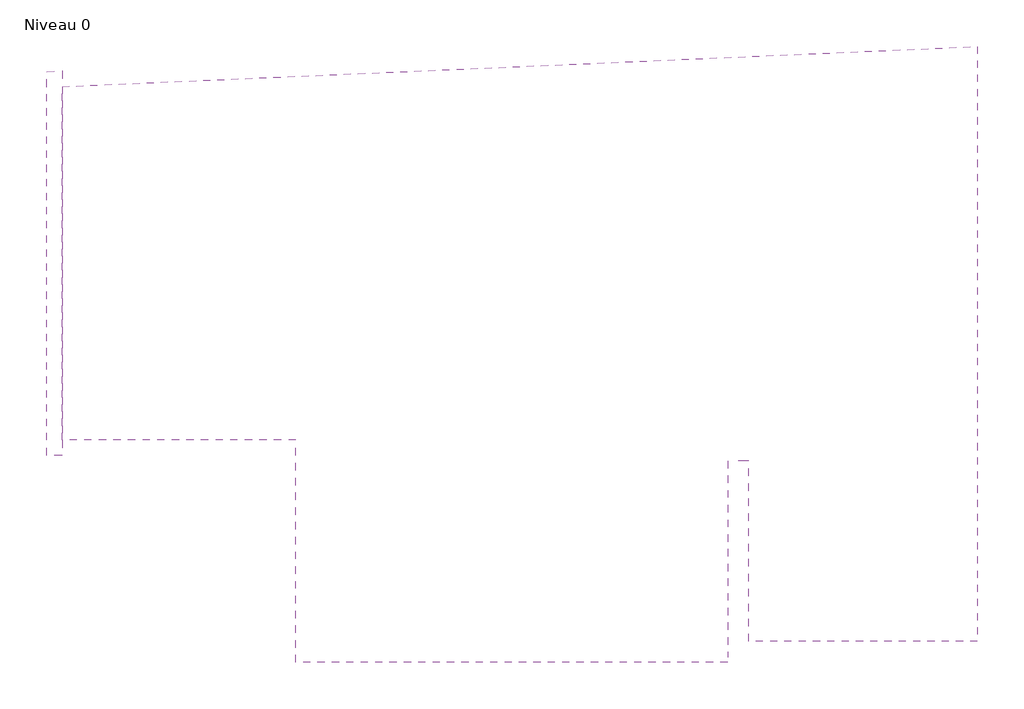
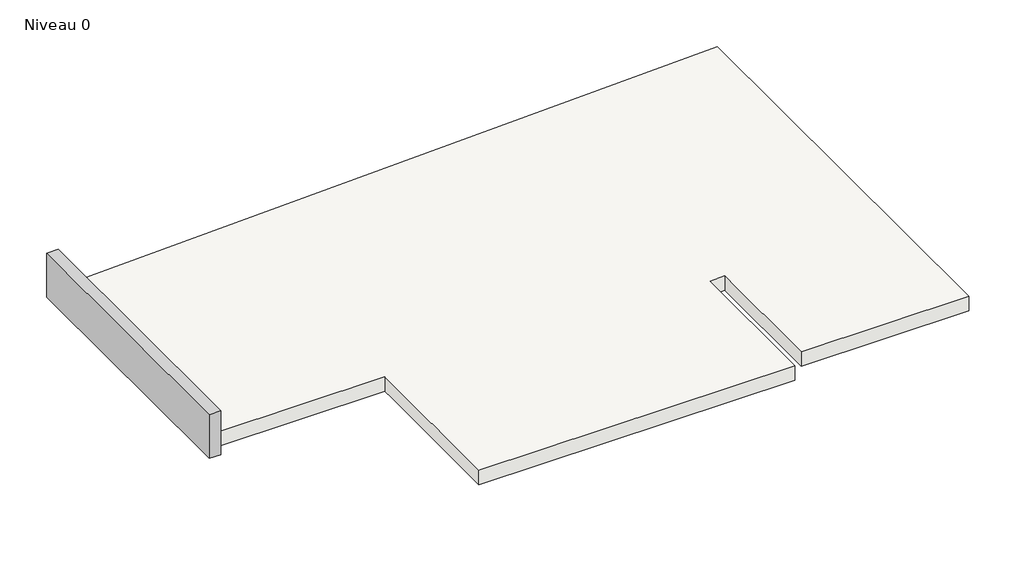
# One storey: 1 beam, 1 slab.
"""IFC4 building model written with IfcOpenShell, lengths in millimetres."""

from ifc_helpers import new_model, si_unit, origin, place, context, project, spatial, faceted_brep, element, save

model = new_model("IFC4")

# Units and contexts
model_context = context("Model", 3, world=origin())
ifc_project = project(units=[si_unit("LENGTHUNIT", "METRE", prefix="MILLI")], contexts=[model_context])

# Site, building, storey
site = spatial("IfcSite", under=ifc_project)
building = spatial("IfcBuilding", under=site)
storey = spatial("IfcBuildingStorey", under=building, Name="Niveau 0", Elevation=0.0)

# Beam
placement = place(None, origin())
element("IfcBeam", 1, ObjectType="Poutre rectangulaire - Béton : Acrotère 15 x 60", at=placement, inside=storey, context=model_context, shape_type="Brep", body=[
    faceted_brep([(-14749.5383156, 10716.6589873, 2600.0), (-14749.5383156, 10716.6589873, 3200.0), (-14749.5383156, 14376.8002654, 3200.0), (-14749.5383156, 14376.8002654, 2600.0), (-14749.5383156, 14226.656559, 2600.0), (-14749.5383156, 10866.6589873, 2600.0), (-14599.5383156, 10716.6589873, 2600.0), (-14599.5383156, 14383.3678063, 2600.0), (-14599.5383156, 14233.2240998, 2600.0), (-14599.5383156, 10866.6589873, 2600.0), (-14599.5383156, 10716.835585, 2600.0), (-14599.5383156, 10716.6589873, 3200.0), (-14599.5383156, 14383.3678063, 3200.0), (-14599.5383156, 14233.2240998, 3200.0), (-14599.5383156, 10866.835585, 3200.0), (-14599.5383156, 10716.835585, 3200.0)], [[[0, 1, 2, 3, 4, 5]], [[6, 0, 5, 4, 3, 7, 8, 9, 10]], [[11, 6, 10, 9, 8, 7, 12, 13, 14, 15]], [[1, 11, 15, 14, 13, 12, 2]], [[1, 0, 6, 11]], [[3, 2, 12, 7]]]),
])

# Slab
element("IfcSlab", 2, ObjectType="Dalle en béton - 20cm", at=placement, inside=storey, context=model_context, shape_type="Brep", body=[
    faceted_brep([(-14599.5383156, 14233.2240998, 2600.0), (-5886.5383156, 14614.7106575, 2600.0), (-5886.5383156, 8946.6589873, 2600.0), (-8065.5383156, 8946.6589873, 2600.0), (-8065.5383156, 10666.6589873, 2600.0), (-8265.5383156, 10666.6589873, 2600.0), (-8265.5383156, 8846.6589873, 2600.0), (-8265.5383156, 8746.6589873, 2600.0), (-12375.5383156, 8746.6589873, 2600.0), (-12375.5383156, 10716.835585, 2600.0), (-12375.5383156, 10866.6589873, 2600.0), (-14599.5383156, 10866.6589873, 2600.0), (-14599.5383156, 14233.2240998, 2800.0), (-14599.5383156, 10866.835585, 2800.0), (-14599.5383156, 10866.6589873, 2800.0), (-12375.5383156, 10866.6589873, 2800.0), (-12375.5383156, 8746.6589873, 2800.0), (-8265.5383156, 8746.6589873, 2800.0), (-8265.5383156, 8846.6589873, 2800.0), (-8265.5383156, 10666.6589873, 2800.0), (-8065.5383156, 10666.6589873, 2800.0), (-8065.5383156, 8946.6589873, 2800.0), (-5886.5383156, 8946.6589873, 2800.0), (-5886.5383156, 14614.7106575, 2800.0), (-5886.5383156, 14614.7106575, 2601.0)], [[[0, 1, 2, 3, 4, 5, 6, 7, 8, 9, 10, 11]], [[12, 13, 14, 15, 16, 17, 18, 19, 20, 21, 22, 23]], [[1, 0, 12, 23, 24]], [[11, 10, 15, 14]], [[0, 11, 14, 13, 12]], [[2, 1, 24, 23, 22]], [[3, 2, 22, 21]], [[4, 3, 21, 20]], [[5, 4, 20, 19]], [[7, 6, 5, 19, 18, 17]], [[8, 7, 17, 16]], [[10, 9, 8, 16, 15]]]),
])

save(model, "model.ifc")
